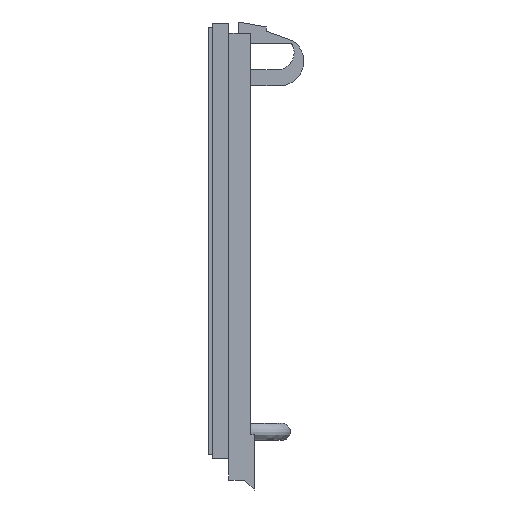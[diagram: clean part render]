
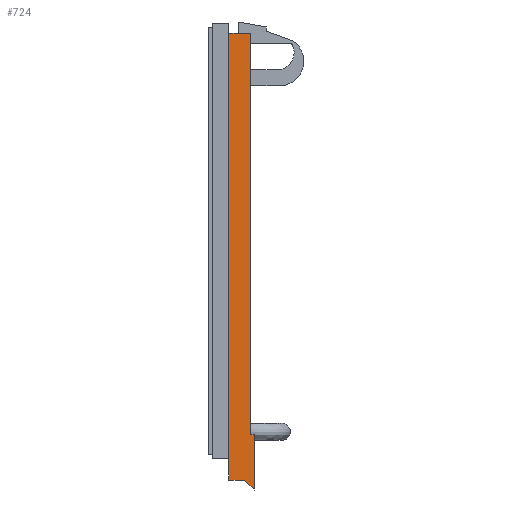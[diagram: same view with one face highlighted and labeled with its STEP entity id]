
A CAD part, left-side view. The second image highlights one B-rep face of the part: STEP entity #724.
In plain terms, the highlighted planar face has unit normal (-1, 0, 0).
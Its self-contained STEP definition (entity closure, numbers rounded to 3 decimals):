
#107 = CARTESIAN_POINT ( 'NONE',  ( -26.75, 0.45, -16.85 ) ) ;
#166 = CARTESIAN_POINT ( 'NONE',  ( -26.75, 0., 14.65 ) ) ;
#169 = CARTESIAN_POINT ( 'NONE',  ( -26.75, 1.55, -16.85 ) ) ;
#204 = EDGE_CURVE ( 'NONE', #254, #486, #324, .T. ) ;
#234 = DIRECTION ( 'NONE',  ( 0., 0., -1. ) ) ;
#237 = VECTOR ( 'NONE', #1623, 1000. ) ;
#249 = CARTESIAN_POINT ( 'NONE',  ( -26.75, 1.55, -13.65 ) ) ;
#254 = VERTEX_POINT ( 'NONE', #616 ) ;
#263 = VERTEX_POINT ( 'NONE', #1735 ) ;
#270 = LINE ( 'NONE', #169, #237 ) ;
#291 = CARTESIAN_POINT ( 'NONE',  ( -26.75, 1.55, -16.85 ) ) ;
#298 = VECTOR ( 'NONE', #234, 1000. ) ;
#324 = LINE ( 'NONE', #249, #298 ) ;
#327 = DIRECTION ( 'NONE',  ( 0., 0., 1. ) ) ;
#440 = ORIENTED_EDGE ( 'NONE', *, *, #1087, .T. ) ;
#448 = DIRECTION ( 'NONE',  ( 0., -0.707, -0.707 ) ) ;
#486 = VERTEX_POINT ( 'NONE', #291 ) ;
#504 = CARTESIAN_POINT ( 'NONE',  ( -26.75, 1.55, 14.65 ) ) ;
#560 = ORIENTED_EDGE ( 'NONE', *, *, #204, .T. ) ;
#590 = DIRECTION ( 'NONE',  ( 0., 1., 0. ) ) ;
#616 = CARTESIAN_POINT ( 'NONE',  ( -26.75, 1.55, -15.35 ) ) ;
#627 = VECTOR ( 'NONE', #855, 1000. ) ;
#643 = DIRECTION ( 'NONE',  ( 0., 0., 1. ) ) ;
#661 = EDGE_CURVE ( 'NONE', #1660, #1592, #880, .T. ) ;
#665 = CARTESIAN_POINT ( 'NONE',  ( -26.75, 1.55, 14.65 ) ) ;
#666 = FACE_OUTER_BOUND ( 'NONE', #981, .T. ) ;
#679 = LINE ( 'NONE', #1950, #627 ) ;
#716 = ORIENTED_EDGE ( 'NONE', *, *, #1921, .T. ) ;
#724 = ADVANCED_FACE ( 'NONE', ( #666 ), #1900, .T. ) ;
#741 = AXIS2_PLACEMENT_3D ( 'NONE', #1288, #1591, #643 ) ;
#778 = VECTOR ( 'NONE', #988, 1000. ) ;
#810 = VERTEX_POINT ( 'NONE', #1610 ) ;
#837 = VECTOR ( 'NONE', #1937, 1000. ) ;
#855 = DIRECTION ( 'NONE',  ( 0., -1., 0. ) ) ;
#868 = EDGE_CURVE ( 'NONE', #486, #1660, #270, .T. ) ;
#870 = VERTEX_POINT ( 'NONE', #504 ) ;
#880 = LINE ( 'NONE', #1427, #1095 ) ;
#980 = VERTEX_POINT ( 'NONE', #1363 ) ;
#981 = EDGE_LOOP ( 'NONE', ( #716, #560, #1704, #1269, #1462, #440, #1142, #1111 ) ) ;
#987 = LINE ( 'NONE', #166, #837 ) ;
#988 = DIRECTION ( 'NONE',  ( 0., 0., -1. ) ) ;
#1032 = VECTOR ( 'NONE', #327, 1000. ) ;
#1087 = EDGE_CURVE ( 'NONE', #263, #810, #1821, .T. ) ;
#1095 = VECTOR ( 'NONE', #448, 1000. ) ;
#1111 = ORIENTED_EDGE ( 'NONE', *, *, #1502, .F. ) ;
#1112 = LINE ( 'NONE', #2077, #1032 ) ;
#1142 = ORIENTED_EDGE ( 'NONE', *, *, #1402, .F. ) ;
#1258 = LINE ( 'NONE', #665, #778 ) ;
#1269 = ORIENTED_EDGE ( 'NONE', *, *, #661, .T. ) ;
#1288 = CARTESIAN_POINT ( 'NONE',  ( -26.75, 1.55, 14.65 ) ) ;
#1359 = EDGE_CURVE ( 'NONE', #1592, #263, #1112, .T. ) ;
#1363 = CARTESIAN_POINT ( 'NONE',  ( -26.75, 0., 14.65 ) ) ;
#1402 = EDGE_CURVE ( 'NONE', #980, #810, #987, .T. ) ;
#1427 = CARTESIAN_POINT ( 'NONE',  ( -26.75, 0.45, -16.85 ) ) ;
#1462 = ORIENTED_EDGE ( 'NONE', *, *, #1359, .T. ) ;
#1502 = EDGE_CURVE ( 'NONE', #870, #980, #679, .T. ) ;
#1546 = CARTESIAN_POINT ( 'NONE',  ( -26.75, -0.25, -13.65 ) ) ;
#1591 = DIRECTION ( 'NONE',  ( -1., 0., 0. ) ) ;
#1592 = VERTEX_POINT ( 'NONE', #2006 ) ;
#1610 = CARTESIAN_POINT ( 'NONE',  ( -26.75, 0., -13.65 ) ) ;
#1623 = DIRECTION ( 'NONE',  ( 0., -1., 0. ) ) ;
#1660 = VERTEX_POINT ( 'NONE', #107 ) ;
#1704 = ORIENTED_EDGE ( 'NONE', *, *, #868, .T. ) ;
#1727 = VECTOR ( 'NONE', #590, 1000. ) ;
#1735 = CARTESIAN_POINT ( 'NONE',  ( -26.75, -0.25, -13.65 ) ) ;
#1821 = LINE ( 'NONE', #1546, #1727 ) ;
#1900 = PLANE ( 'NONE',  #741 ) ;
#1921 = EDGE_CURVE ( 'Arista1', #870, #254, #1258, .T. ) ;
#1937 = DIRECTION ( 'NONE',  ( 0., 0., -1. ) ) ;
#1950 = CARTESIAN_POINT ( 'NONE',  ( -26.75, 1.55, 14.65 ) ) ;
#2006 = CARTESIAN_POINT ( 'NONE',  ( -26.75, -0.25, -17.55 ) ) ;
#2077 = CARTESIAN_POINT ( 'NONE',  ( -26.75, -0.25, -17.55 ) ) ;
